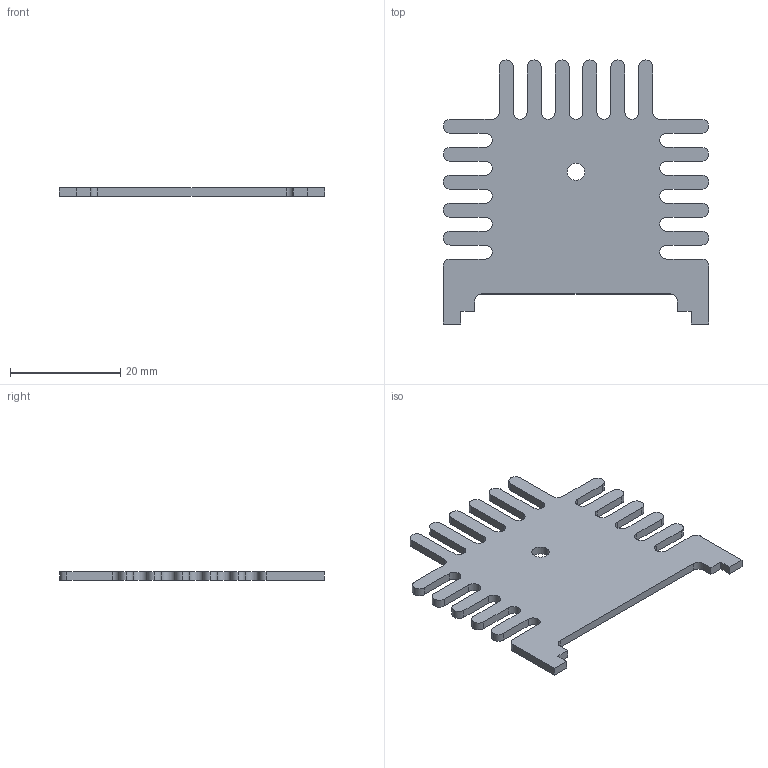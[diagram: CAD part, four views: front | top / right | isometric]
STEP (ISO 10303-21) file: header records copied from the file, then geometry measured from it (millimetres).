
FILE_DESCRIPTION (( 'STEP AP203' ), '1' );
FILE_NAME ('UV00005561_A_CLA.STEP', '2025-03-13T17:58:22', ( '' ), ( '' ), 'SwSTEP 2.0', 'SolidWorks 2015', '' );
FILE_SCHEMA (( 'CONFIG_CONTROL_DESIGN' ));
Length unit declared in the file: inch
Products named in the file (1): UV00005561_A_CLA
Bounding box: 48.26 x 48.01 x 1.52 mm (x, y, z)
Volume: 2307.1 mm3; surface area: 3732 mm2
Topology: 1 solids, 1 shells, 96 faces, 282 edges, 188 vertices
Faces by surface type: cylinder 49, plane 47
Entity records: 3307 total; most frequent: DIRECTION 574, CARTESIAN_POINT 567, ORIENTED_EDGE 564, EDGE_CURVE 282, AXIS2_PLACEMENT_3D 195, VERTEX_POINT 188, LINE 184, VECTOR 184
